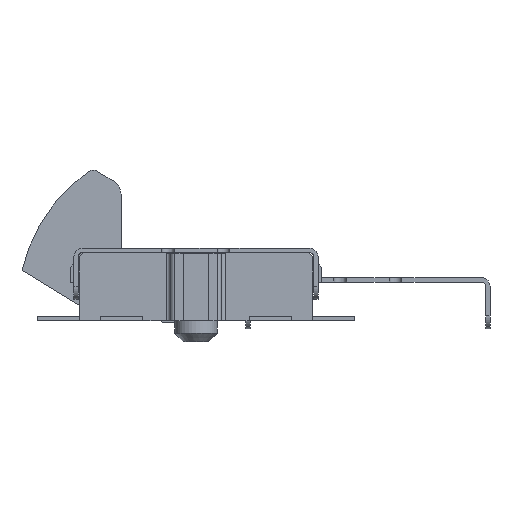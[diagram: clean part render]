
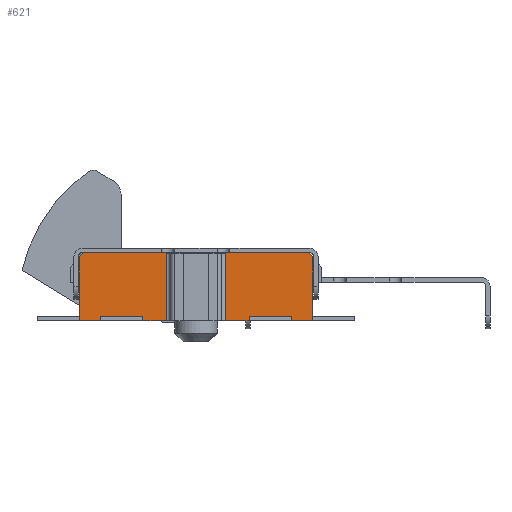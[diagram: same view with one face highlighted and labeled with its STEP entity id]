
A CAD part, front view. The second image highlights one B-rep face of the part: STEP entity #621.
In plain terms, the highlighted planar face has unit normal (0, -1, 0).
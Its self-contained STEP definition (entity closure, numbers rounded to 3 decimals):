
#621 = ADVANCED_FACE( '', ( #1290 ), #1291, .F. );
#1290 = FACE_OUTER_BOUND( '', #2044, .T. );
#1291 = PLANE( '', #2045 );
#2044 = EDGE_LOOP( '', ( #3718, #3719, #3720, #3721, #3722, #3723, #3724, #3725, #3726, #3727, #3728, #3729, #3730, #3731, #3732, #3733, #3734, #3735 ) );
#2045 = AXIS2_PLACEMENT_3D( '', #3736, #3737, #3738 );
#3718 = ORIENTED_EDGE( '', *, *, #5170, .F. );
#3719 = ORIENTED_EDGE( '', *, *, #5171, .T. );
#3720 = ORIENTED_EDGE( '', *, *, #4754, .T. );
#3721 = ORIENTED_EDGE( '', *, *, #4623, .T. );
#3722 = ORIENTED_EDGE( '', *, *, #4522, .T. );
#3723 = ORIENTED_EDGE( '', *, *, #4499, .F. );
#3724 = ORIENTED_EDGE( '', *, *, #4934, .T. );
#3725 = ORIENTED_EDGE( '', *, *, #4613, .T. );
#3726 = ORIENTED_EDGE( '', *, *, #4855, .F. );
#3727 = ORIENTED_EDGE( '', *, *, #5103, .F. );
#3728 = ORIENTED_EDGE( '', *, *, #5165, .T. );
#3729 = ORIENTED_EDGE( '', *, *, #4609, .T. );
#3730 = ORIENTED_EDGE( '', *, *, #4848, .F. );
#3731 = ORIENTED_EDGE( '', *, *, #5105, .T. );
#3732 = ORIENTED_EDGE( '', *, *, #4876, .F. );
#3733 = ORIENTED_EDGE( '', *, *, #5081, .T. );
#3734 = ORIENTED_EDGE( '', *, *, #5172, .T. );
#3735 = ORIENTED_EDGE( '', *, *, #4629, .T. );
#3736 = CARTESIAN_POINT( '', ( -2.75, -3.1, 1.6 ) );
#3737 = DIRECTION( '', ( 0., 1., 0. ) );
#3738 = DIRECTION( '', ( 0., 0., 1. ) );
#4499 = EDGE_CURVE( '', #5359, #5361, #5362, .T. );
#4522 = EDGE_CURVE( '', #5401, #5361, #5402, .F. );
#4609 = EDGE_CURVE( '', #5554, #5552, #5555, .T. );
#4613 = EDGE_CURVE( '', #5561, #5559, #5562, .T. );
#4623 = EDGE_CURVE( '', #5579, #5401, #5580, .T. );
#4629 = EDGE_CURVE( '', #5591, #5589, #5592, .T. );
#4754 = EDGE_CURVE( '', #5801, #5579, #5802, .T. );
#4848 = EDGE_CURVE( '', #5942, #5552, #5944, .T. );
#4855 = EDGE_CURVE( '', #5952, #5559, #5954, .T. );
#4876 = EDGE_CURVE( '', #5983, #5985, #5986, .T. );
#4934 = EDGE_CURVE( '', #5359, #5561, #6070, .T. );
#5081 = EDGE_CURVE( '', #5983, #6282, #6284, .T. );
#5103 = EDGE_CURVE( '', #6311, #5952, #6313, .T. );
#5105 = EDGE_CURVE( '', #5942, #5985, #6315, .T. );
#5165 = EDGE_CURVE( '', #6311, #5554, #6386, .T. );
#5170 = EDGE_CURVE( '', #6391, #5589, #6392, .T. );
#5171 = EDGE_CURVE( '', #6391, #5801, #6393, .T. );
#5172 = EDGE_CURVE( '', #6282, #5591, #6394, .T. );
#5359 = VERTEX_POINT( '', #6627 );
#5361 = VERTEX_POINT( '', #6629 );
#5362 = LINE( '', #6630, #6631 );
#5401 = VERTEX_POINT( '', #6717 );
#5402 = LINE( '', #6718, #6719 );
#5552 = VERTEX_POINT( '', #6953 );
#5554 = VERTEX_POINT( '', #6956 );
#5555 = LINE( '', #6957, #6958 );
#5559 = VERTEX_POINT( '', #6963 );
#5561 = VERTEX_POINT( '', #6966 );
#5562 = LINE( '', #6967, #6968 );
#5579 = VERTEX_POINT( '', #6992 );
#5580 = LINE( '', #6993, #6994 );
#5589 = VERTEX_POINT( '', #7005 );
#5591 = VERTEX_POINT( '', #7008 );
#5592 = LINE( '', #7009, #7010 );
#5801 = VERTEX_POINT( '', #7446 );
#5802 = LINE( '', #7447, #7448 );
#5942 = VERTEX_POINT( '', #7790 );
#5944 = LINE( '', #7793, #7794 );
#5952 = VERTEX_POINT( '', #7805 );
#5954 = LINE( '', #7808, #7809 );
#5983 = VERTEX_POINT( '', #7851 );
#5985 = VERTEX_POINT( '', #7854 );
#5986 = LINE( '', #7855, #7856 );
#6070 = LINE( '', #8021, #8022 );
#6282 = VERTEX_POINT( '', #8370 );
#6284 = LINE( '', #8373, #8374 );
#6311 = VERTEX_POINT( '', #8413 );
#6313 = LINE( '', #8416, #8417 );
#6315 = LINE( '', #8419, #8420 );
#6386 = LINE( '', #8547, #8548 );
#6391 = VERTEX_POINT( '', #8555 );
#6392 = LINE( '', #8556, #8557 );
#6393 = LINE( '', #8558, #8559 );
#6394 = LINE( '', #8560, #8561 );
#6627 = CARTESIAN_POINT( '', ( 0.7, -3.1, 1.58 ) );
#6629 = CARTESIAN_POINT( '', ( -0.7, -3.1, 1.58 ) );
#6630 = CARTESIAN_POINT( '', ( -0.6, -3.1, 1.58 ) );
#6631 = VECTOR( '', #8856, 1000. );
#6717 = CARTESIAN_POINT( '', ( -0.7, -3.1, 0. ) );
#6718 = CARTESIAN_POINT( '', ( -0.7, -3.1, 1.58 ) );
#6719 = VECTOR( '', #8883, 1000. );
#6953 = CARTESIAN_POINT( '', ( 2.75, -3.1, 0. ) );
#6956 = CARTESIAN_POINT( '', ( 2.25, -3.1, 0. ) );
#6957 = CARTESIAN_POINT( '', ( -2.75, -3.1, 0. ) );
#6958 = VECTOR( '', #8984, 1000. );
#6963 = CARTESIAN_POINT( '', ( 1.25, -3.1, 0. ) );
#6966 = CARTESIAN_POINT( '', ( 0.7, -3.1, 0. ) );
#6967 = CARTESIAN_POINT( '', ( -2.75, -3.1, 0. ) );
#6968 = VECTOR( '', #8990, 1000. );
#6992 = CARTESIAN_POINT( '', ( -1.25, -3.1, 0. ) );
#6993 = CARTESIAN_POINT( '', ( -2.75, -3.1, 0. ) );
#6994 = VECTOR( '', #9004, 1000. );
#7005 = CARTESIAN_POINT( '', ( -2.25, -3.1, 0. ) );
#7008 = CARTESIAN_POINT( '', ( -2.75, -3.1, 0. ) );
#7009 = CARTESIAN_POINT( '', ( -2.75, -3.1, 0. ) );
#7010 = VECTOR( '', #9014, 1000. );
#7446 = CARTESIAN_POINT( '', ( -1.25, -3.1, 0.1 ) );
#7447 = CARTESIAN_POINT( '', ( -1.25, -3.1, 0.1 ) );
#7448 = VECTOR( '', #9152, 1000. );
#7790 = CARTESIAN_POINT( '', ( 2.75, -3.1, 1.5 ) );
#7793 = CARTESIAN_POINT( '', ( 2.75, -3.1, 1.6 ) );
#7794 = VECTOR( '', #9245, 1000. );
#7805 = CARTESIAN_POINT( '', ( 1.25, -3.1, 0.1 ) );
#7808 = CARTESIAN_POINT( '', ( 1.25, -3.1, 0.1 ) );
#7809 = VECTOR( '', #9250, 1000. );
#7851 = CARTESIAN_POINT( '', ( -2.65, -3.1, 1.6 ) );
#7854 = CARTESIAN_POINT( '', ( 2.65, -3.1, 1.6 ) );
#7855 = CARTESIAN_POINT( '', ( -2.75, -3.1, 1.6 ) );
#7856 = VECTOR( '', #9268, 1000. );
#8021 = CARTESIAN_POINT( '', ( 0.7, -3.1, 0. ) );
#8022 = VECTOR( '', #9326, 1000. );
#8370 = CARTESIAN_POINT( '', ( -2.75, -3.1, 1.5 ) );
#8373 = CARTESIAN_POINT( '', ( -2.65, -3.1, 1.6 ) );
#8374 = VECTOR( '', #9479, 1000. );
#8413 = CARTESIAN_POINT( '', ( 2.25, -3.1, 0.1 ) );
#8416 = CARTESIAN_POINT( '', ( 1.25, -3.1, 0.1 ) );
#8417 = VECTOR( '', #9496, 1000. );
#8419 = CARTESIAN_POINT( '', ( 2.65, -3.1, 1.6 ) );
#8420 = VECTOR( '', #9497, 1000. );
#8547 = CARTESIAN_POINT( '', ( 2.25, -3.1, 0.1 ) );
#8548 = VECTOR( '', #9545, 1000. );
#8555 = CARTESIAN_POINT( '', ( -2.25, -3.1, 0.1 ) );
#8556 = CARTESIAN_POINT( '', ( -2.25, -3.1, 0.1 ) );
#8557 = VECTOR( '', #9548, 1000. );
#8558 = CARTESIAN_POINT( '', ( -2.25, -3.1, 0.1 ) );
#8559 = VECTOR( '', #9549, 1000. );
#8560 = CARTESIAN_POINT( '', ( -2.75, -3.1, 1.6 ) );
#8561 = VECTOR( '', #9550, 1000. );
#8856 = DIRECTION( '', ( -1., 0., 0. ) );
#8883 = DIRECTION( '', ( 0., 0., -1. ) );
#8984 = DIRECTION( '', ( 1., 0., 0. ) );
#8990 = DIRECTION( '', ( 1., 0., 0. ) );
#9004 = DIRECTION( '', ( 1., 0., 0. ) );
#9014 = DIRECTION( '', ( 1., 0., 0. ) );
#9152 = DIRECTION( '', ( 0., 0., -1. ) );
#9245 = DIRECTION( '', ( 0., 0., -1. ) );
#9250 = DIRECTION( '', ( 0., 0., -1. ) );
#9268 = DIRECTION( '', ( 1., 0., 0. ) );
#9326 = DIRECTION( '', ( 0., 0., -1. ) );
#9479 = DIRECTION( '', ( -0.707, 0., -0.707 ) );
#9496 = DIRECTION( '', ( -1., 0., 0. ) );
#9497 = DIRECTION( '', ( -0.707, 0., 0.707 ) );
#9545 = DIRECTION( '', ( 0., 0., -1. ) );
#9548 = DIRECTION( '', ( 0., 0., -1. ) );
#9549 = DIRECTION( '', ( 1., 0., 0. ) );
#9550 = DIRECTION( '', ( 0., 0., -1. ) );
